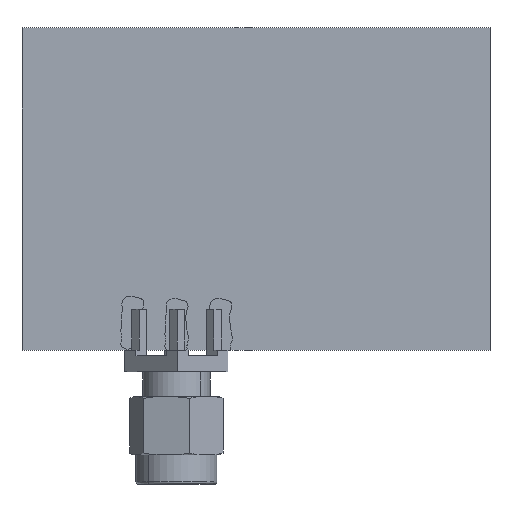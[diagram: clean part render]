
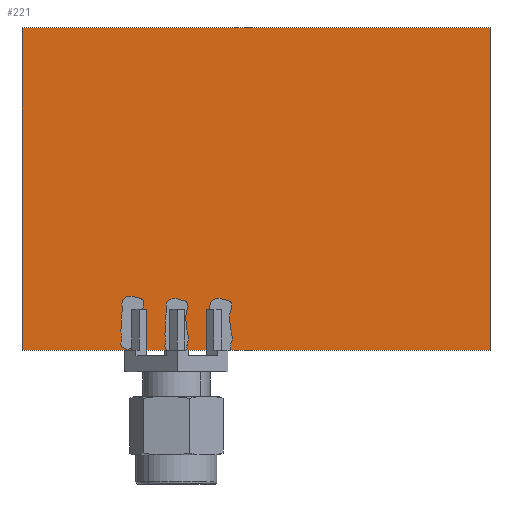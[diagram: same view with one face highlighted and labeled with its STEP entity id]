
A CAD part, top view. The second image highlights one B-rep face of the part: STEP entity #221.
In plain terms, the highlighted planar face has unit normal (0, 0, 1).
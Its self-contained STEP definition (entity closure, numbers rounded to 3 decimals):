
#106=DIRECTION('',(0.,-1.,0.));
#107=VECTOR('',#106,31.);
#108=CARTESIAN_POINT('',(-22.5,15.5,0.));
#109=LINE('',#108,#107);
#113=DIRECTION('',(-1.,0.,0.));
#114=VECTOR('',#113,45.);
#115=CARTESIAN_POINT('',(22.5,15.5,0.));
#116=LINE('',#115,#114);
#120=DIRECTION('',(0.,1.,0.));
#121=VECTOR('',#120,31.);
#122=CARTESIAN_POINT('',(22.5,-15.5,0.));
#123=LINE('',#122,#121);
#127=DIRECTION('',(1.,0.,0.));
#128=VECTOR('',#127,45.);
#129=CARTESIAN_POINT('',(-22.5,-15.5,0.));
#130=LINE('',#129,#128);
#190=CARTESIAN_POINT('',(-22.5,15.5,0.));
#191=CARTESIAN_POINT('',(-22.5,-15.5,0.));
#192=VERTEX_POINT('',#190);
#193=VERTEX_POINT('',#191);
#194=CARTESIAN_POINT('',(22.5,-15.5,0.));
#195=VERTEX_POINT('',#194);
#196=CARTESIAN_POINT('',(22.5,15.5,0.));
#197=VERTEX_POINT('',#196);
#206=CARTESIAN_POINT('',(0.,0.,0.));
#207=DIRECTION('',(0.,0.,1.));
#208=DIRECTION('',(1.,0.,0.));
#209=AXIS2_PLACEMENT_3D('',#206,#207,#208);
#210=PLANE('',#209);
#212=ORIENTED_EDGE('',*,*,#211,.F.);
#214=ORIENTED_EDGE('',*,*,#213,.F.);
#216=ORIENTED_EDGE('',*,*,#215,.F.);
#218=ORIENTED_EDGE('',*,*,#217,.F.);
#219=EDGE_LOOP('',(#212,#214,#216,#218));
#220=FACE_OUTER_BOUND('',#219,.F.);
#211=EDGE_CURVE('',#192,#193,#109,.T.);
#213=EDGE_CURVE('',#197,#192,#116,.T.);
#215=EDGE_CURVE('',#195,#197,#123,.T.);
#217=EDGE_CURVE('',#193,#195,#130,.T.);
#221=ADVANCED_FACE('',(#220),#210,.T.);
